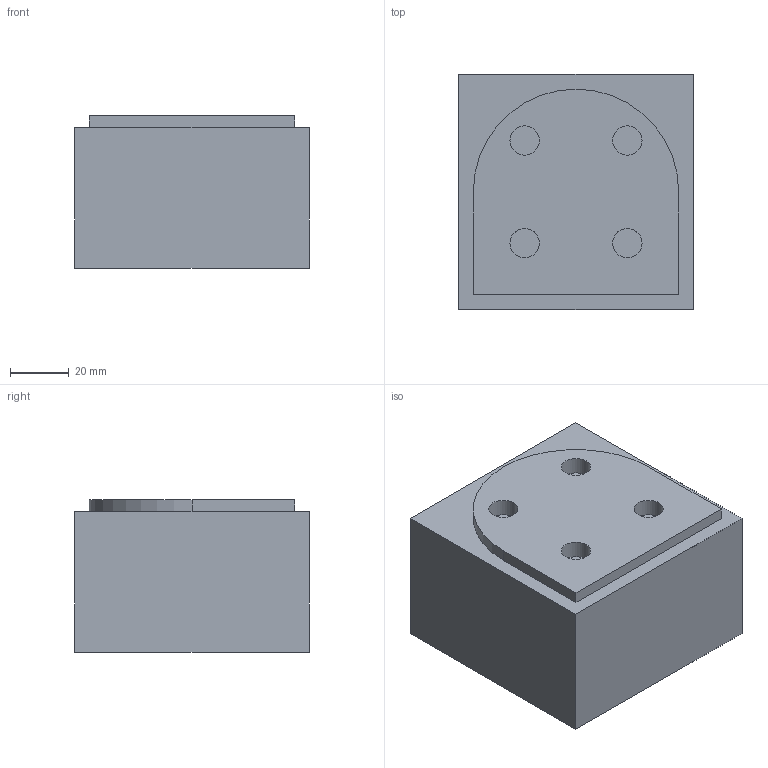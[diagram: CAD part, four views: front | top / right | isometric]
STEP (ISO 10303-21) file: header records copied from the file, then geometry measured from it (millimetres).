
FILE_DESCRIPTION(/* description */ (''),/* implementation_level */ '2;1');
FILE_NAME(/* name */ '5.step',/* time_stamp */ '2025-09-02T11:26:30+02:00',/* author */ (''),/* organization */ (''),/* preprocessor_version */ 'ST-DEVELOPER v20.1',/* originating_system */ 'Autodesk Translation Framework v14.10.0.0',/* authorisation */ '');
FILE_SCHEMA (('AUTOMOTIVE_DESIGN { 1 0 10303 214 3 1 1 }'));
Length unit declared in the file: millimetre
Products named in the file (1): Stufe 4
Bounding box: 80 x 80 x 52 mm (x, y, z)
Volume: 322811.9 mm3; surface area: 29913.8 mm2
Topology: 1 solids, 1 shells, 19 faces, 36 edges, 24 vertices
Faces by surface type: plane 14, cylinder 5
Full cylindrical faces by diameter (mm): 10 x4
Entity records: 513 total; most frequent: DIRECTION 86, CARTESIAN_POINT 80, ORIENTED_EDGE 72, EDGE_CURVE 36, AXIS2_PLACEMENT_3D 30, LINE 26, VECTOR 26, EDGE_LOOP 24
